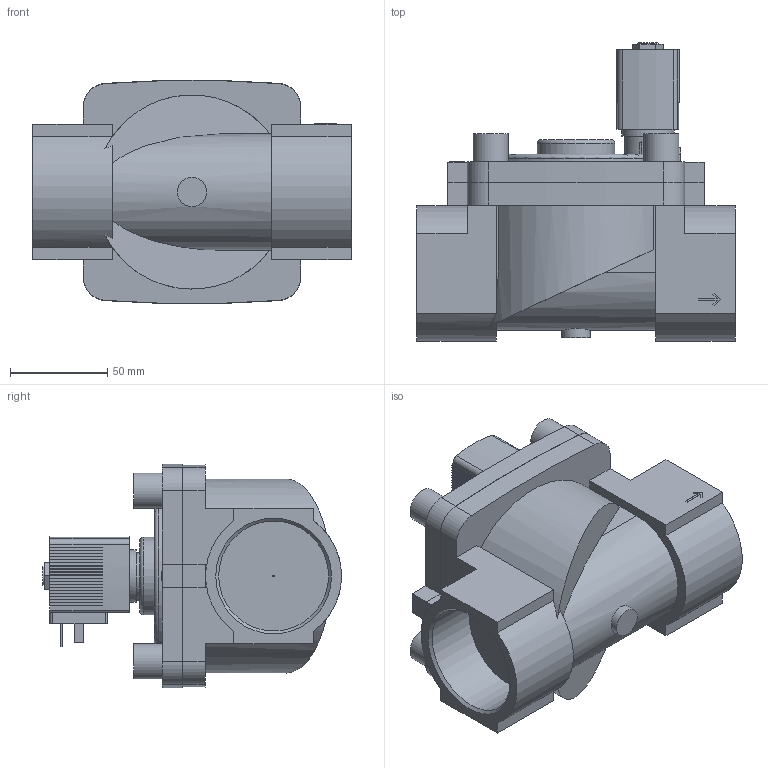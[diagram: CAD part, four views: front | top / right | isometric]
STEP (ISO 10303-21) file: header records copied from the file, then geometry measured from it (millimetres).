
FILE_DESCRIPTION(/* description */ ('STEP AP214'),/* implementation_level */ '2;1');
FILE_NAME(/* name */ '6281-345831-2_2-Way_Solenoid_Valve__Servo-assisted__General_Purpose',/* time_stamp */ '2024-09-06T10:46:12+02:00',/* author */ ('License CC BY-ND 4.0'),/* organization */ ('CADENAS'),/* preprocessor_version */ 'ST-DEVELOPER v19.3',/* originating_system */ 'PARTsolutions',/* authorisation */ ' ');
FILE_SCHEMA (('AUTOMOTIVE_DESIGN {1 0 10303 214 3 1 1}'));
Length unit declared in the file: millimetre
Products named in the file (4): 6281-345831-2/2-Way Solenoid Valve, Servo-assisted, General Purpose; 5281ev501MS2/2-Wege-Magnetventil mit Servomembran-Deckel 115 ; 5281ge-50 G2 MS; AC10ex-5OO-Plan-Coil
Assembly tree (3 placements, depth 2):
  6281-345831-2/2-Way Solenoid Valve, Servo-assisted, General Purpose
    5281ev501MS2/2-Wege-Magnetventil mit Servomembran-Deckel 115 
    5281ge-50 G2 MS
    AC10ex-5OO-Plan-Coil
Bounding box: 164 x 153.87 x 114.92 mm (x, y, z)
Volume: 977831.7 mm3; surface area: 125944.7 mm2
Topology: 3 solids, 3 shells, 458 faces, 1292 edges, 860 vertices
Faces by surface type: plane 386, cylinder 61, cone 9, torus 2
Full cylindrical faces by diameter (mm): 1 x1, 2.013 x1, 6.8 x1, 9.74 x1, 15 x1, 18 x4, 27 x1, 40 x1, 56.656 x2
Entity records: 17405 total; most frequent: CARTESIAN_POINT 2676, ORIENTED_EDGE 2532, DIRECTION 2398, EDGE_CURVE 1266, LINE 1010, VECTOR 1010, VERTEX_POINT 851, AXIS2_PLACEMENT_3D 694
